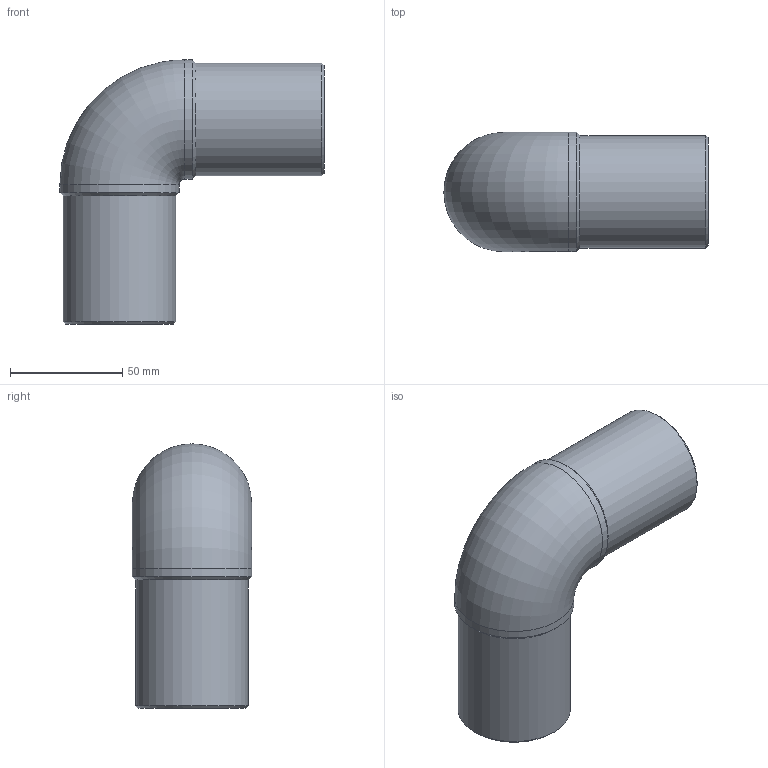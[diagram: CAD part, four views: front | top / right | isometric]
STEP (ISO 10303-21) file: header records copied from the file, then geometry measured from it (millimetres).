
FILE_DESCRIPTION(/* description */ ('Unknown'),/* implementation_level */ '2;1');
FILE_NAME(/* name */ 'G9P050H',/* time_stamp */ '2021-11-15T16:27:32+01:00',/* author */ ('Unknown'),/* organization */ ('Unknown'),/* preprocessor_version */ 'ST-DEVELOPER v16.7',/* originating_system */ 'Solid Edge',/* authorisation */ 'Unknown');
FILE_SCHEMA (('AUTOMOTIVE_DESIGN {1 0 10303 214 3 1 1}'));
Length unit declared in the file: millimetre
Products named in the file (1): G9P050H
Bounding box: 117.5 x 53 x 117.5 mm (x, y, z)
Volume: 173157.4 mm3; surface area: 48371.8 mm2
Topology: 1 solids, 1 shells, 14 faces, 34 edges, 22 vertices
Faces by surface type: cylinder 6, cone 4, plane 2, torus 2
Full cylindrical faces by diameter (mm): 36.2 x2, 50 x2, 53 x2
Entity records: 370 total; most frequent: CARTESIAN_POINT 70, DIRECTION 60, ORIENTED_EDGE 38, AXIS2_PLACEMENT_3D 30, EDGE_LOOP 27, FACE_BOUND 27, EDGE_CURVE 19, VERTEX_POINT 18
